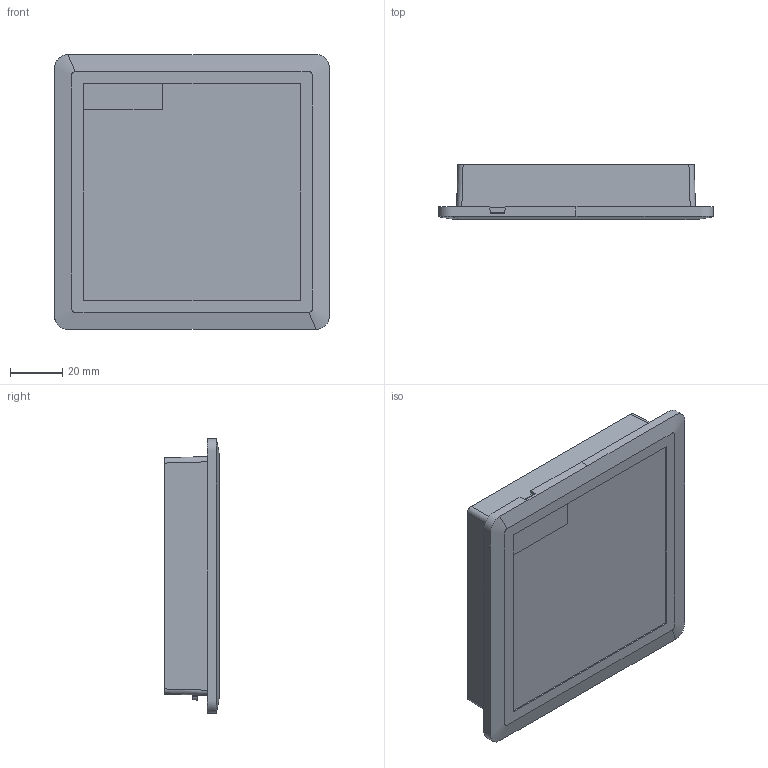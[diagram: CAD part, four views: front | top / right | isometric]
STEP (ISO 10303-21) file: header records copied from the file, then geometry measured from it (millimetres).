
FILE_DESCRIPTION(/* description */ (''),/* implementation_level */ '2;1');
FILE_NAME(/* name */ 'FPF08K~1',/* time_stamp */ '2019-09-06T14:58:41+02:00',/* author */ (''),/* organization */ (''),/* preprocessor_version */ 'ST-DEVELOPER v14',/* originating_system */ '',/* authorisation */ '');
FILE_SCHEMA (('CONFIG_CONTROL_DESIGN'));
Length unit declared in the file: millimetre
Products named in the file (1): Document
Bounding box: 105 x 21 x 105 mm (x, y, z)
Volume: 179679.6 mm3; surface area: 30942.3 mm2
Topology: 1 solids, 1 shells, 46 faces, 116 edges, 77 vertices
Faces by surface type: plane 28, bspline 18
Entity records: 3536 total; most frequent: CARTESIAN_POINT 2691, ORIENTED_EDGE 232, EDGE_CURVE 116, B_SPLINE_CURVE_WITH_KNOTS 90, VERTEX_POINT 77, EDGE_LOOP 51, ADVANCED_FACE 46, FACE_OUTER_BOUND 46
